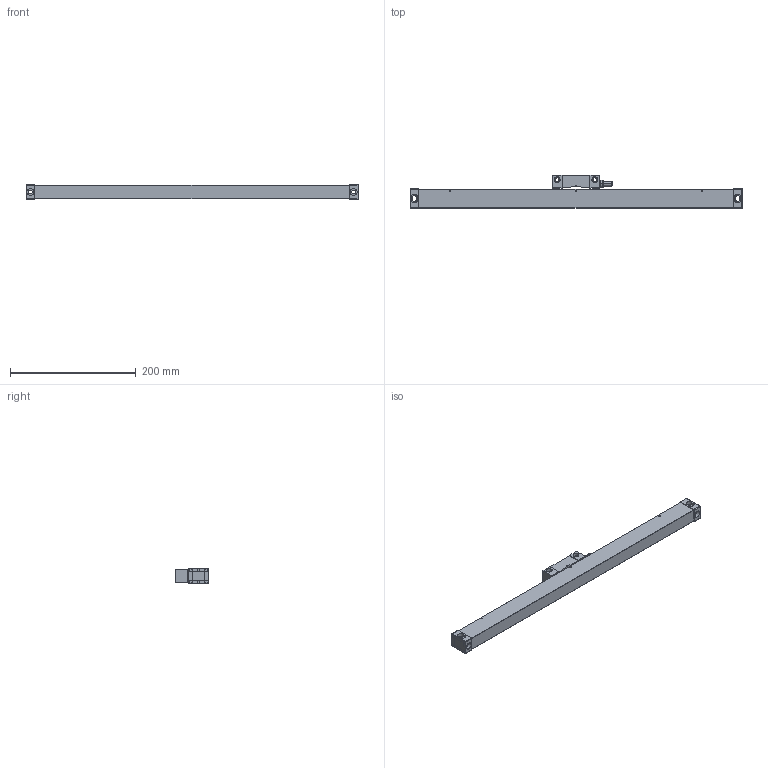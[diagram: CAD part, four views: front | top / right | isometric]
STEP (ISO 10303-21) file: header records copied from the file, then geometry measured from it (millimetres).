
FILE_DESCRIPTION (( 'STEP AP214' ), '1' );
FILE_NAME ('JCXE400-W5.step', '2023-05-18T05:31:26', ( 'Windows 蚚誧' ), ( '' ), 'SwSTEP 2.0', 'SolidWorks 2016', '' );
FILE_SCHEMA (( 'AUTOMOTIVE_DESIGN' ));
Length unit declared in the file: millimetre
Products named in the file (1): JCXE400-W5
Bounding box: 528 x 52.5 x 23.5 mm (x, y, z)
Volume: 366033.4 mm3; surface area: 69871.7 mm2
Topology: 2 solids, 2 shells, 307 faces, 756 edges, 466 vertices
Faces by surface type: cylinder 138, plane 134, torus 22, sphere 11, cone 2
Entity records: 9260 total; most frequent: CARTESIAN_POINT 1860, DIRECTION 1588, ORIENTED_EDGE 1486, EDGE_CURVE 743, AXIS2_PLACEMENT_3D 596, VERTEX_POINT 464, VECTOR 396, LINE 396
